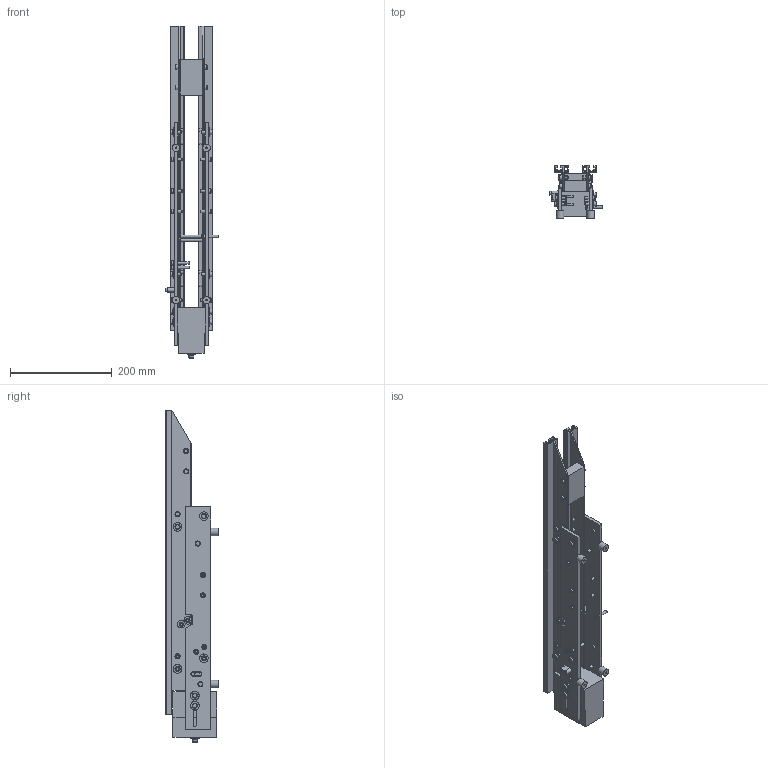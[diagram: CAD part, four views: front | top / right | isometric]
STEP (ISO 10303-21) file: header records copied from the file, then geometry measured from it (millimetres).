
FILE_DESCRIPTION(/* description */ ('STEP AP203'),/* implementation_level */ '2;1');
FILE_NAME(/* name */ 'Linearförderer SLL400-600 B CE 200V_50Hz',/* time_stamp */ '2024-09-29T16:57:19+02:00',/* author */ ('License CC BY-ND 4.0'),/* organization */ ('CADENAS'),/* preprocessor_version */ 'ST-DEVELOPER v19.3',/* originating_system */ 'PARTsolutions',/* authorisation */ ' ');
FILE_SCHEMA (('CONFIG_CONTROL_DESIGN'));
Length unit declared in the file: millimetre
Products named in the file (4): Linearförderer SLL400-600 B CE 200V/50Hz; Linearförderer SLL400-600 B CE 200V/50Hz_PART1; Linearförderer SLL400-600 B CE 200V/50Hz_PART2; Linearförderer SLL400-600 B CE 200V/50Hz_PART3
Assembly tree (3 placements, depth 2):
  Linearförderer SLL400-600 B CE 200V/50Hz
    Linearförderer SLL400-600 B CE 200V/50Hz_PART1
    Linearförderer SLL400-600 B CE 200V/50Hz_PART2
    Linearförderer SLL400-600 B CE 200V/50Hz_PART3
Bounding box: 103.54 x 103 x 654 mm (x, y, z)
Volume: 1075671.7 mm3; surface area: 399634.6 mm2
Topology: 3 solids, 3 shells, 694 faces, 1721 edges, 1140 vertices
Faces by surface type: plane 363, cone 189, cylinder 138, torus 4
Full cylindrical faces by diameter (mm): 3.3 x4, 4 x1, 5 x21, 6 x8, 6.88 x1, 7 x1, 8.5 x20, 10 x31, 15 x6, 17 x13
Entity records: 18626 total; most frequent: CARTESIAN_POINT 3474, DIRECTION 3162, ORIENTED_EDGE 2758, EDGE_CURVE 1379, AXIS2_PLACEMENT_3D 1187, EDGE_LOOP 1016, FACE_BOUND 1016, VERTEX_POINT 1001
